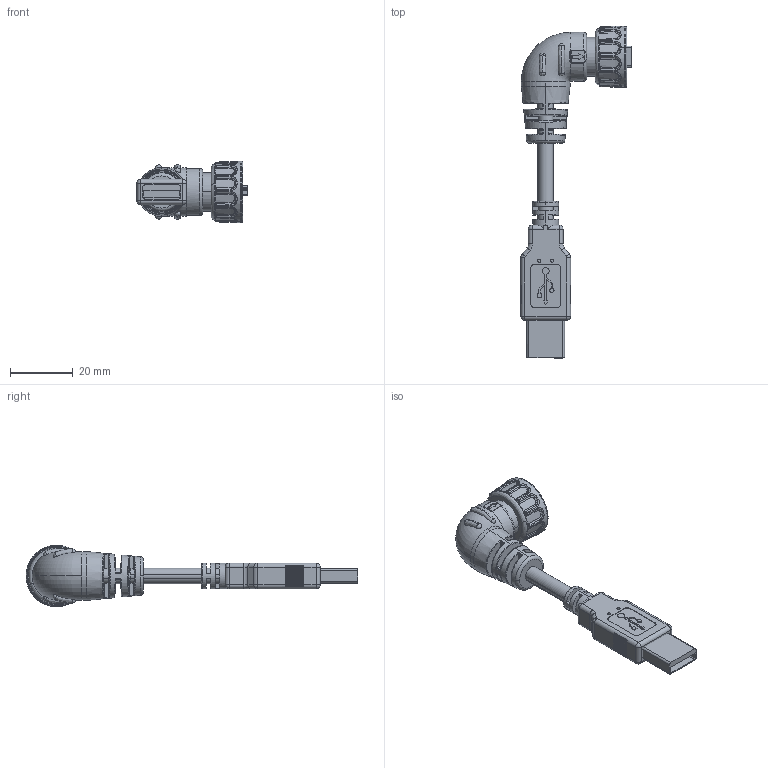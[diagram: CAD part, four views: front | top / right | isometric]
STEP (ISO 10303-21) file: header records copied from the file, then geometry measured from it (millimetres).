
FILE_DESCRIPTION (( 'STEP AP203' ), '1' );
FILE_NAME ('GT214329-05-XX.STEP', '2012-01-05T01:05:09', ( 'RD-07' ), ( '' ), 'SwSTEP 2.0', 'SolidWorks 2010', '' );
FILE_SCHEMA (( 'CONFIG_CONTROL_DESIGN' ));
Length unit declared in the file: millimetre
Products named in the file (15): 70114-X7101; 67114-00210; MALE PIN-1; 66214-30010; CABLE; GT214329-05-XX; 69114-X7101; MINI USB-B MALE CONNECTOR_Default; MALE PIN-5; MAIL PIN-4; MAIL PIN-3; wire_Default; 70000-X7101_Default; plug-1_Default; Plug
Assembly tree (17 placements, depth 3):
  GT214329-05-XX
    67114-00210
    wire_Default
    70114-X7101
    MINI USB-B MALE CONNECTOR_Default
      MALE PIN-1  x3
      MALE PIN-5
      MAIL PIN-4
      MAIL PIN-3  x2
    70000-X7101_Default
      plug-1_Default
      Plug
      CABLE
    66214-30010
    69114-X7101
Bounding box: 35.05 x 105.41 x 19.51 mm (x, y, z)
Volume: 16327.9 mm3; surface area: 11552.3 mm2
Topology: 15 solids, 15 shells, 1005 faces, 2680 edges, 1680 vertices
Faces by surface type: plane 422, bspline 343, cylinder 192, torus 22, cone 18, sphere 8
Entity records: 55624 total; most frequent: CARTESIAN_POINT 33245, ORIENTED_EDGE 5014, DIRECTION 3421, EDGE_CURVE 2507, VERTEX_POINT 1570, AXIS2_PLACEMENT_3D 1163, VECTOR 1095, LINE 1095
